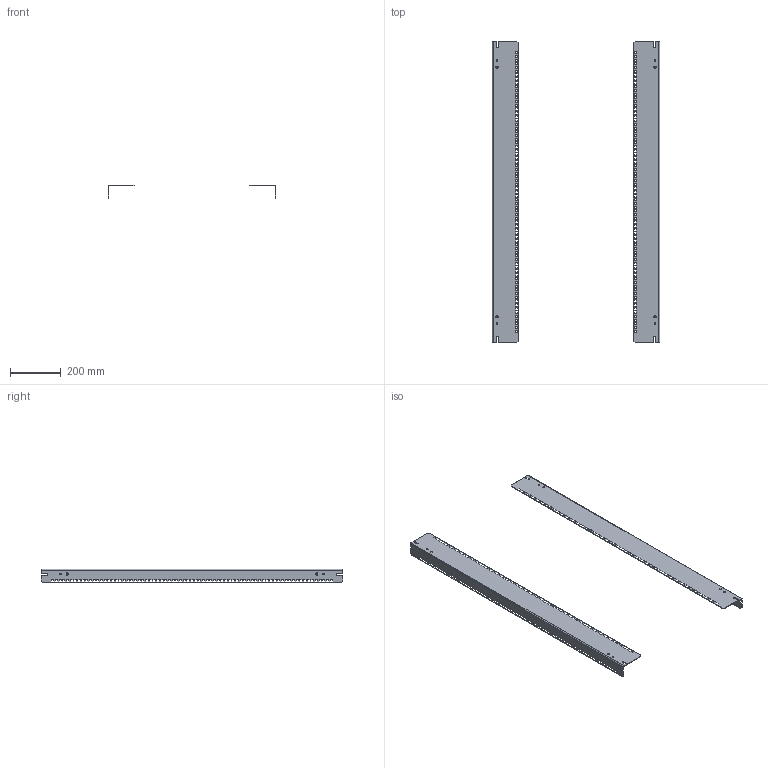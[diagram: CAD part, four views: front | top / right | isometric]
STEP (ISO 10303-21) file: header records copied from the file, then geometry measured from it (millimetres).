
FILE_DESCRIPTION (( 'STEP AP214' ), '1' );
FILE_NAME ('era192312s.STEP', '2007-06-27T12:57:24', ( '' ), ( '' ), 'SwSTEP 2.0', 'SolidWorks 2007', '' );
FILE_SCHEMA (( 'AUTOMOTIVE_DESIGN' ));
Length unit declared in the file: inch
Products named in the file (2): angle_rack_ERA192312S; era192312s
Assembly tree (2 placements, depth 2):
  era192312s
    angle_rack_ERA192312S  x2
Bounding box: 660.3 x 1187.45 x 53.34 mm (x, y, z)
Volume: 827090 mm3; surface area: 714260.8 mm2
Topology: 2 solids, 2 shells, 1412 faces, 4120 edges, 2736 vertices
Faces by surface type: plane 1384, cylinder 28
Entity records: 23549 total; most frequent: CARTESIAN_POINT 4139, ORIENTED_EDGE 4120, DIRECTION 3510, EDGE_CURVE 2060, VECTOR 2032, LINE 2032, VERTEX_POINT 1368, EDGE_LOOP 1026
